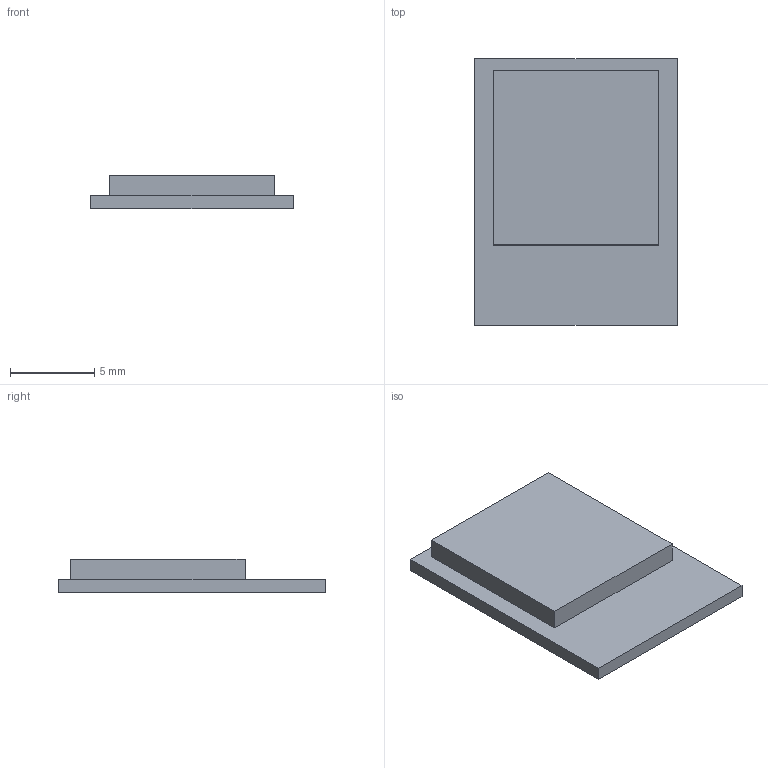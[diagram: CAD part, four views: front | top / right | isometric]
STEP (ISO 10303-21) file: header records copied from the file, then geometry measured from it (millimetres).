
FILE_DESCRIPTION(('Open CASCADE Model'),'2;1');
FILE_NAME('Open CASCADE Shape Model','2026-09-12T19:12:27',('Author'),( 'Open CASCADE'),'Open CASCADE STEP processor 7.9','Open CASCADE 7.9' ,'Unknown');
FILE_SCHEMA(('AUTOMOTIVE_DESIGN { 1 0 10303 214 1 1 1 1 }'));
Length unit declared in the file: millimetre
Products named in the file (1): Open CASCADE STEP translator 7.9 2
Bounding box: 12 x 15.8 x 2 mm (x, y, z)
Volume: 273.3 mm3; surface area: 472 mm2
Topology: 1 solids, 1 shells, 11 faces, 24 edges, 16 vertices
Faces by surface type: plane 11
Entity records: 620 total; most frequent: CARTESIAN_POINT 100, DIRECTION 96, LINE 72, VECTOR 72, ORIENTED_EDGE 48, PCURVE 48, DEFINITIONAL_REPRESENTATION 48, EDGE_CURVE 24
